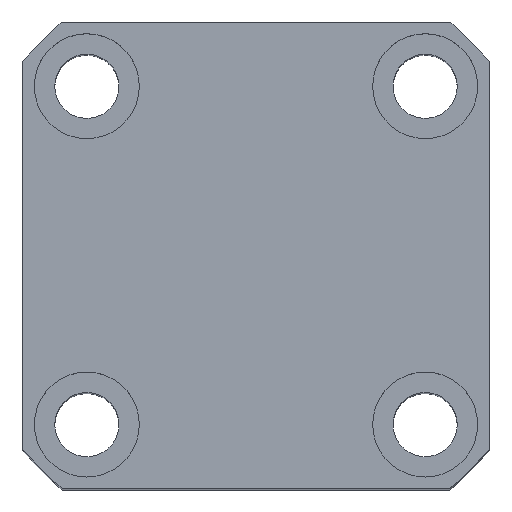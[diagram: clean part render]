
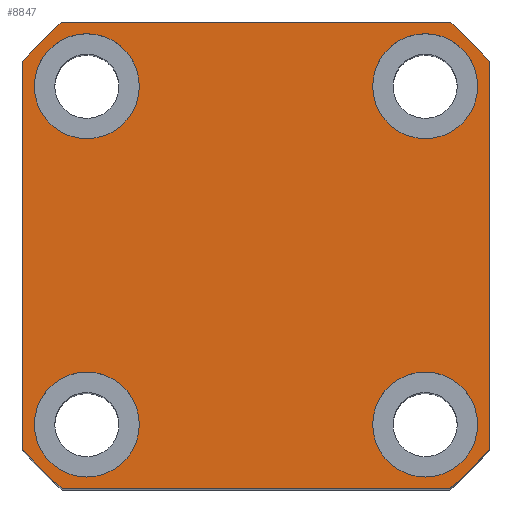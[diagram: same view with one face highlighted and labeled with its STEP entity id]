
A CAD part, top view. The second image highlights one B-rep face of the part: STEP entity #8847.
In plain terms, the highlighted planar face has unit normal (0, 0, 1).
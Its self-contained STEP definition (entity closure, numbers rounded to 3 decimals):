
#231 = DIRECTION ( 'NONE',  ( 0., 0., 1. ) ) ;
#327 = AXIS2_PLACEMENT_3D ( 'NONE', #10729, #9456, #459 ) ;
#380 = CARTESIAN_POINT ( 'NONE',  ( -20., -29., 65. ) ) ;
#459 = DIRECTION ( 'NONE',  ( 1., 0., 0. ) ) ;
#492 = LINE ( 'NONE', #2937, #6915 ) ;
#849 = EDGE_LOOP ( 'NONE', ( #2505, #2621 ) ) ;
#864 = VERTEX_POINT ( 'NONE', #14592 ) ;
#900 = CIRCLE ( 'NONE', #6311, 52. ) ;
#1007 = CARTESIAN_POINT ( 'NONE',  ( -29., -29., 65. ) ) ;
#1025 = DIRECTION ( 'NONE',  ( 0., 0., 1. ) ) ;
#1036 = EDGE_CURVE ( 'NONE', #1189, #4933, #900, .T. ) ;
#1189 = VERTEX_POINT ( 'NONE', #1739 ) ;
#1316 = EDGE_CURVE ( 'NONE', #864, #12110, #9820, .T. ) ;
#1352 = AXIS2_PLACEMENT_3D ( 'NONE', #11209, #1025, #2056 ) ;
#1489 = CARTESIAN_POINT ( 'NONE',  ( 0., 0., 65. ) ) ;
#1583 = CARTESIAN_POINT ( 'NONE',  ( -20., 29., 65. ) ) ;
#1676 = CARTESIAN_POINT ( 'NONE',  ( 20., 29., 65. ) ) ;
#1681 = ORIENTED_EDGE ( 'NONE', *, *, #11282, .T. ) ;
#1739 = CARTESIAN_POINT ( 'NONE',  ( 40., 33.226, 65. ) ) ;
#1755 = VERTEX_POINT ( 'NONE', #14053 ) ;
#1806 = EDGE_CURVE ( 'NONE', #12092, #7159, #13036, .T. ) ;
#1856 = VERTEX_POINT ( 'NONE', #6297 ) ;
#2056 = DIRECTION ( 'NONE',  ( 1., 0., 0. ) ) ;
#2073 = CIRCLE ( 'NONE', #3736, 9. ) ;
#2150 = CARTESIAN_POINT ( 'NONE',  ( -40., -33.226, 65. ) ) ;
#2218 = CIRCLE ( 'NONE', #327, 9. ) ;
#2505 = ORIENTED_EDGE ( 'NONE', *, *, #6009, .F. ) ;
#2543 = CARTESIAN_POINT ( 'NONE',  ( 0., 0., 65. ) ) ;
#2555 = DIRECTION ( 'NONE',  ( 0., 0., 1. ) ) ;
#2621 = ORIENTED_EDGE ( 'NONE', *, *, #9663, .F. ) ;
#2762 = LINE ( 'NONE', #7270, #11541 ) ;
#2794 = AXIS2_PLACEMENT_3D ( 'NONE', #1007, #7899, #3379 ) ;
#2905 = DIRECTION ( 'NONE',  ( 0., 0., 1. ) ) ;
#2937 = CARTESIAN_POINT ( 'NONE',  ( 40., 33.226, 65. ) ) ;
#3143 = AXIS2_PLACEMENT_3D ( 'NONE', #9368, #11988, #4715 ) ;
#3379 = DIRECTION ( 'NONE',  ( 1., 0., 0. ) ) ;
#3736 = AXIS2_PLACEMENT_3D ( 'NONE', #9775, #2905, #13350 ) ;
#4502 = DIRECTION ( 'NONE',  ( 0., 0., 1. ) ) ;
#4715 = DIRECTION ( 'NONE',  ( 1., 0., 0. ) ) ;
#4742 = EDGE_CURVE ( 'NONE', #7988, #1189, #492, .T. ) ;
#4877 = DIRECTION ( 'NONE',  ( 1., 0., 0. ) ) ;
#4890 = LINE ( 'NONE', #9863, #9362 ) ;
#4891 = ORIENTED_EDGE ( 'NONE', *, *, #8985, .T. ) ;
#4898 = CARTESIAN_POINT ( 'NONE',  ( 38., 29., 65. ) ) ;
#4933 = VERTEX_POINT ( 'NONE', #6706 ) ;
#5068 = LINE ( 'NONE', #7235, #7052 ) ;
#5125 = DIRECTION ( 'NONE',  ( 0., 0., 1. ) ) ;
#5325 = EDGE_CURVE ( 'NONE', #12798, #5801, #2073, .T. ) ;
#5351 = AXIS2_PLACEMENT_3D ( 'NONE', #6289, #5125, #14244 ) ;
#5435 = ORIENTED_EDGE ( 'NONE', *, *, #10009, .T. ) ;
#5636 = EDGE_LOOP ( 'NONE', ( #13223, #13441 ) ) ;
#5782 = CARTESIAN_POINT ( 'NONE',  ( 38., -29., 65. ) ) ;
#5799 = EDGE_CURVE ( 'NONE', #5840, #7988, #6538, .T. ) ;
#5801 = VERTEX_POINT ( 'NONE', #5782 ) ;
#5840 = VERTEX_POINT ( 'NONE', #9400 ) ;
#6009 = EDGE_CURVE ( 'NONE', #8945, #1856, #2218, .T. ) ;
#6289 = CARTESIAN_POINT ( 'NONE',  ( -29., 29., 65. ) ) ;
#6297 = CARTESIAN_POINT ( 'NONE',  ( -38., 29., 65. ) ) ;
#6311 = AXIS2_PLACEMENT_3D ( 'NONE', #1489, #9528, #12828 ) ;
#6534 = FACE_OUTER_BOUND ( 'NONE', #14413, .T. ) ;
#6538 = CIRCLE ( 'NONE', #8728, 52. ) ;
#6702 = VERTEX_POINT ( 'NONE', #2150 ) ;
#6706 = CARTESIAN_POINT ( 'NONE',  ( 33.226, 40., 65. ) ) ;
#6915 = VECTOR ( 'NONE', #12300, 1000. ) ;
#6965 = CARTESIAN_POINT ( 'NONE',  ( -40., 33.226, 65. ) ) ;
#7052 = VECTOR ( 'NONE', #4877, 1000. ) ;
#7075 = CARTESIAN_POINT ( 'NONE',  ( 0., 0., 65. ) ) ;
#7159 = VERTEX_POINT ( 'NONE', #1676 ) ;
#7235 = CARTESIAN_POINT ( 'NONE',  ( -33.226, -40., 65. ) ) ;
#7270 = CARTESIAN_POINT ( 'NONE',  ( -40., 33.226, 65. ) ) ;
#7667 = EDGE_LOOP ( 'NONE', ( #9112, #11430 ) ) ;
#7899 = DIRECTION ( 'NONE',  ( 0., 0., 1. ) ) ;
#7988 = VERTEX_POINT ( 'NONE', #13521 ) ;
#8072 = DIRECTION ( 'NONE',  ( 1., 0., 0. ) ) ;
#8195 = CARTESIAN_POINT ( 'NONE',  ( -33.226, -40., 65. ) ) ;
#8221 = DIRECTION ( 'NONE',  ( 1., 0., 0. ) ) ;
#8331 = ORIENTED_EDGE ( 'NONE', *, *, #1036, .T. ) ;
#8719 = AXIS2_PLACEMENT_3D ( 'NONE', #9053, #4502, #10505 ) ;
#8728 = AXIS2_PLACEMENT_3D ( 'NONE', #2543, #231, #9348 ) ;
#8733 = ORIENTED_EDGE ( 'NONE', *, *, #4742, .T. ) ;
#8847 = ADVANCED_FACE ( 'NONE', ( #9917, #13823, #10804, #9577, #6534 ), #13619, .T. ) ;
#8945 = VERTEX_POINT ( 'NONE', #1583 ) ;
#8985 = EDGE_CURVE ( 'NONE', #12069, #6702, #2762, .T. ) ;
#9053 = CARTESIAN_POINT ( 'NONE',  ( 0., 0., 65. ) ) ;
#9112 = ORIENTED_EDGE ( 'NONE', *, *, #1806, .F. ) ;
#9240 = CIRCLE ( 'NONE', #2794, 9. ) ;
#9312 = DIRECTION ( 'NONE',  ( 0., 0., 1. ) ) ;
#9348 = DIRECTION ( 'NONE',  ( 1., 0., 0. ) ) ;
#9360 = DIRECTION ( 'NONE',  ( 1., 0., 0. ) ) ;
#9362 = VECTOR ( 'NONE', #13292, 1000. ) ;
#9368 = CARTESIAN_POINT ( 'NONE',  ( 0., 0., 65. ) ) ;
#9376 = AXIS2_PLACEMENT_3D ( 'NONE', #14145, #10767, #10878 ) ;
#9400 = CARTESIAN_POINT ( 'NONE',  ( 33.226, -40., 65. ) ) ;
#9456 = DIRECTION ( 'NONE',  ( 0., 0., 1. ) ) ;
#9527 = VERTEX_POINT ( 'NONE', #8195 ) ;
#9528 = DIRECTION ( 'NONE',  ( 0., 0., 1. ) ) ;
#9577 = FACE_BOUND ( 'NONE', #7667, .T. ) ;
#9663 = EDGE_CURVE ( 'NONE', #1856, #8945, #11346, .T. ) ;
#9768 = ORIENTED_EDGE ( 'NONE', *, *, #11375, .T. ) ;
#9775 = CARTESIAN_POINT ( 'NONE',  ( 29., -29., 65. ) ) ;
#9820 = CIRCLE ( 'NONE', #10336, 9. ) ;
#9829 = EDGE_CURVE ( 'NONE', #7159, #12092, #10785, .T. ) ;
#9863 = CARTESIAN_POINT ( 'NONE',  ( -33.226, 40., 65. ) ) ;
#9917 = FACE_BOUND ( 'NONE', #10388, .T. ) ;
#10009 = EDGE_CURVE ( 'NONE', #1755, #12069, #12579, .T. ) ;
#10207 = EDGE_CURVE ( 'NONE', #5801, #12798, #10251, .T. ) ;
#10251 = CIRCLE ( 'NONE', #1352, 9. ) ;
#10336 = AXIS2_PLACEMENT_3D ( 'NONE', #13927, #2555, #9360 ) ;
#10344 = ORIENTED_EDGE ( 'NONE', *, *, #5325, .F. ) ;
#10388 = EDGE_LOOP ( 'NONE', ( #11057, #10344 ) ) ;
#10480 = CARTESIAN_POINT ( 'NONE',  ( 20., -29., 65. ) ) ;
#10505 = DIRECTION ( 'NONE',  ( 1., 0., 0. ) ) ;
#10630 = ORIENTED_EDGE ( 'NONE', *, *, #10763, .T. ) ;
#10698 = DIRECTION ( 'NONE',  ( 0., -1., 0. ) ) ;
#10729 = CARTESIAN_POINT ( 'NONE',  ( -29., 29., 65. ) ) ;
#10763 = EDGE_CURVE ( 'NONE', #6702, #9527, #10963, .T. ) ;
#10767 = DIRECTION ( 'NONE',  ( 0., 0., 1. ) ) ;
#10785 = CIRCLE ( 'NONE', #11885, 9. ) ;
#10804 = FACE_BOUND ( 'NONE', #849, .T. ) ;
#10878 = DIRECTION ( 'NONE',  ( 1., 0., 0. ) ) ;
#10963 = CIRCLE ( 'NONE', #8719, 52. ) ;
#11057 = ORIENTED_EDGE ( 'NONE', *, *, #10207, .F. ) ;
#11209 = CARTESIAN_POINT ( 'NONE',  ( 29., -29., 65. ) ) ;
#11282 = EDGE_CURVE ( 'NONE', #9527, #5840, #5068, .T. ) ;
#11346 = CIRCLE ( 'NONE', #5351, 9. ) ;
#11375 = EDGE_CURVE ( 'NONE', #4933, #1755, #4890, .T. ) ;
#11430 = ORIENTED_EDGE ( 'NONE', *, *, #9829, .F. ) ;
#11541 = VECTOR ( 'NONE', #10698, 1000. ) ;
#11885 = AXIS2_PLACEMENT_3D ( 'NONE', #14478, #13773, #8072 ) ;
#11988 = DIRECTION ( 'NONE',  ( 0., 0., 1. ) ) ;
#12069 = VERTEX_POINT ( 'NONE', #6965 ) ;
#12092 = VERTEX_POINT ( 'NONE', #4898 ) ;
#12110 = VERTEX_POINT ( 'NONE', #380 ) ;
#12300 = DIRECTION ( 'NONE',  ( 0., 1., 0. ) ) ;
#12306 = ORIENTED_EDGE ( 'NONE', *, *, #5799, .T. ) ;
#12579 = CIRCLE ( 'NONE', #3143, 52. ) ;
#12798 = VERTEX_POINT ( 'NONE', #10480 ) ;
#12828 = DIRECTION ( 'NONE',  ( 1., 0., 0. ) ) ;
#13025 = AXIS2_PLACEMENT_3D ( 'NONE', #7075, #9312, #8221 ) ;
#13036 = CIRCLE ( 'NONE', #9376, 9. ) ;
#13223 = ORIENTED_EDGE ( 'NONE', *, *, #13809, .F. ) ;
#13292 = DIRECTION ( 'NONE',  ( -1., 0., 0. ) ) ;
#13350 = DIRECTION ( 'NONE',  ( 1., 0., 0. ) ) ;
#13441 = ORIENTED_EDGE ( 'NONE', *, *, #1316, .F. ) ;
#13521 = CARTESIAN_POINT ( 'NONE',  ( 40., -33.226, 65. ) ) ;
#13619 = PLANE ( 'NONE',  #13025 ) ;
#13773 = DIRECTION ( 'NONE',  ( 0., 0., 1. ) ) ;
#13809 = EDGE_CURVE ( 'NONE', #12110, #864, #9240, .T. ) ;
#13823 = FACE_BOUND ( 'NONE', #5636, .T. ) ;
#13927 = CARTESIAN_POINT ( 'NONE',  ( -29., -29., 65. ) ) ;
#14053 = CARTESIAN_POINT ( 'NONE',  ( -33.226, 40., 65. ) ) ;
#14145 = CARTESIAN_POINT ( 'NONE',  ( 29., 29., 65. ) ) ;
#14244 = DIRECTION ( 'NONE',  ( 1., 0., 0. ) ) ;
#14413 = EDGE_LOOP ( 'NONE', ( #5435, #4891, #10630, #1681, #12306, #8733, #8331, #9768 ) ) ;
#14478 = CARTESIAN_POINT ( 'NONE',  ( 29., 29., 65. ) ) ;
#14592 = CARTESIAN_POINT ( 'NONE',  ( -38., -29., 65. ) ) ;
